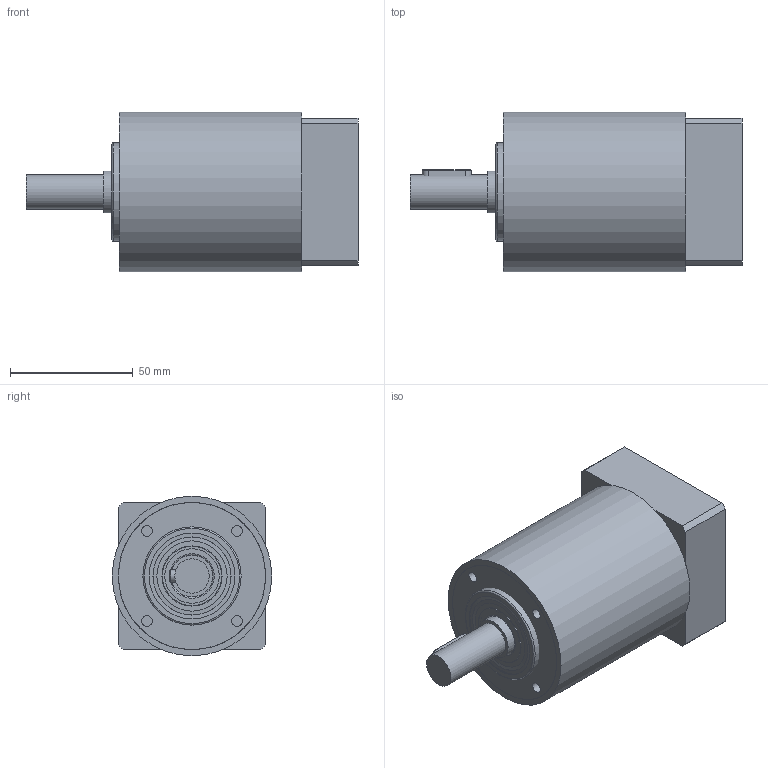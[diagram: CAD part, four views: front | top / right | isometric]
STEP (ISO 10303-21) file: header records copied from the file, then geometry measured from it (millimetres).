
FILE_DESCRIPTION(/* description */ (''),/* implementation_level */ '2;1');
FILE_NAME(/* name */ 'E00017964713MP040509092319_step214.stp',/* time_stamp */ '2009-05-04T09:26:17+02:00',/* author */ (''),/* organization */ (''),/* preprocessor_version */ 'ST-DEVELOPER v11',/* originating_system */ 'UGS - NX 5.0',/* authorisation */ '');
FILE_SCHEMA (('AUTOMOTIVE_DESIGN { 1 0 10303 214 0 1 1 1 }'));
Length unit declared in the file: millimetre
Products named in the file (1): E00017964713MP040509092319_M
Bounding box: 135.25 x 65 x 65 mm (x, y, z)
Volume: 386015.6 mm3; surface area: 75169.6 mm2
Topology: 12 solids, 12 shells, 139 faces, 293 edges, 186 vertices
Faces by surface type: cylinder 53, plane 50, cone 26, torus 10
Full cylindrical faces by diameter (mm): 3.432 x9, 4.351 x4, 4.5 x1, 7.5 x1, 9.75 x1, 14 x2, 17 x3, 22.2 x2, 24.5 x2, 32.9 x2, 35 x4, 35.5 x1, 40 x1, 43 x1, 50 x2, 57.4 x1, 59.85 x1, 60 x2, 65 x1
Entity records: 3341 total; most frequent: DIRECTION 592, CARTESIAN_POINT 581, ORIENTED_EDGE 384, AXIS2_PLACEMENT_3D 263, EDGE_LOOP 236, FACE_BOUND 206, EDGE_CURVE 192, VERTEX_POINT 170
